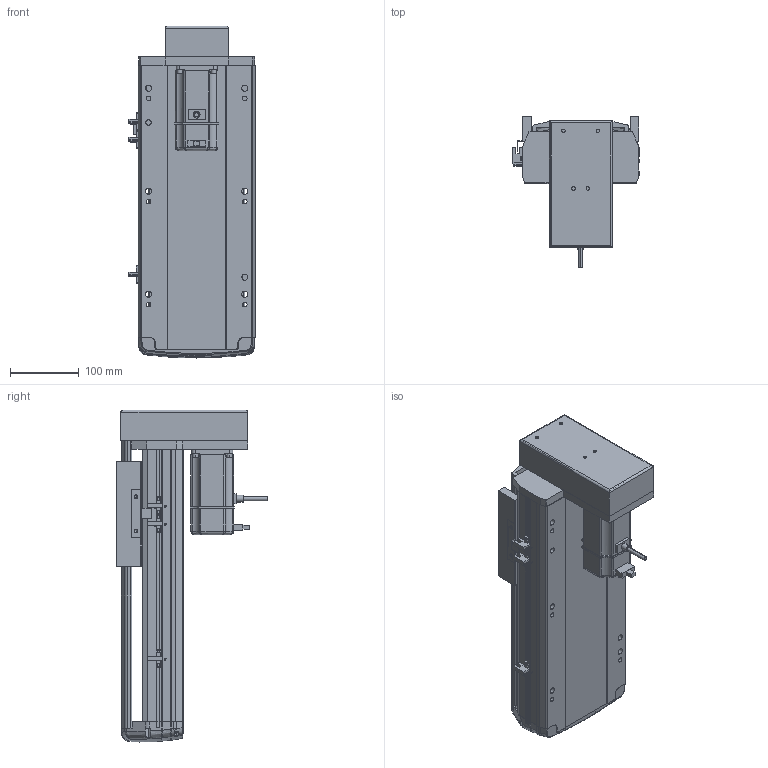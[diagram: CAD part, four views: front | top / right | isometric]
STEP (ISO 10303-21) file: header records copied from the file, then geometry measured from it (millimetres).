
FILE_DESCRIPTION (( 'STEP AP214' ), '1' );
FILE_NAME ('RTH17-XX-200-M-M40-C4.STEP', '2025-10-24T09:02:36', ( '' ), ( '' ), 'SwSTEP 2.0', 'SolidWorks 2018', '' );
FILE_SCHEMA (( 'AUTOMOTIVE_DESIGN' ));
Length unit declared in the file: millimetre
Products named in the file (10): N_RTH17-M-011底座^RTH17-XX-XX-M-M40-C4（方程式）; N_OMRON EE-SX672 換覜ん^RTH17-XX-XX-M-M40-C4ㄗ源最宒ㄘ; N_RTH17-M-018盖子^RTH17-XX-XX-M-M40-C4（方程式）; N_RTH17-E-004丝杆螺母连接座^RTH17-XX-XX-M-M40-C4（方程式）; N_RTH-BL-012 感应片(外置)^RTH17-XX-XX-M-M40-C4（方程式）; RTH17-XX-200-M-M40-C4; N_RTH17-M-008-P40电机安装板下折^RTH17-XX-XX-M-M40-C4（方程式）; N_RTH17-GY-001P^RTH17-XX-XX-M-M40-C4（方程式）; N_M40^RTH17-XX-XX-M-M40-C4（方程式）; N_RTH17-M-007上盖^RTH17-XX-XX-M-M40-C4（方程式）
Assembly tree (11 placements, depth 2):
  RTH17-XX-200-M-M40-C4
    N_RTH17-M-011底座^RTH17-XX-XX-M-M40-C4（方程式）
    N_RTH17-M-007上盖^RTH17-XX-XX-M-M40-C4（方程式）
    N_M40^RTH17-XX-XX-M-M40-C4（方程式）
    N_OMRON EE-SX672 換覜ん^RTH17-XX-XX-M-M40-C4ㄗ源最宒ㄘ  x3
    N_RTH-BL-012 感应片(外置)^RTH17-XX-XX-M-M40-C4（方程式）
    N_RTH17-M-008-P40电机安装板下折^RTH17-XX-XX-M-M40-C4（方程式）
    N_RTH17-M-018盖子^RTH17-XX-XX-M-M40-C4（方程式）
    N_RTH17-E-004丝杆螺母连接座^RTH17-XX-XX-M-M40-C4（方程式）
    N_RTH17-GY-001P^RTH17-XX-XX-M-M40-C4（方程式）
Bounding box: 183.5 x 219 x 483.27 mm (x, y, z)
Volume: 4336612.5 mm3; surface area: 699675.2 mm2
Topology: 10 solids, 12 shells, 1615 faces, 4482 edges, 2920 vertices
Faces by surface type: plane 826, cylinder 422, bspline 330, cone 28, torus 9
Entity records: 46500 total; most frequent: CARTESIAN_POINT 18898, ORIENTED_EDGE 5988, DIRECTION 4930, EDGE_CURVE 2998, VERTEX_POINT 1956, VECTOR 1720, LINE 1720, AXIS2_PLACEMENT_3D 1605
